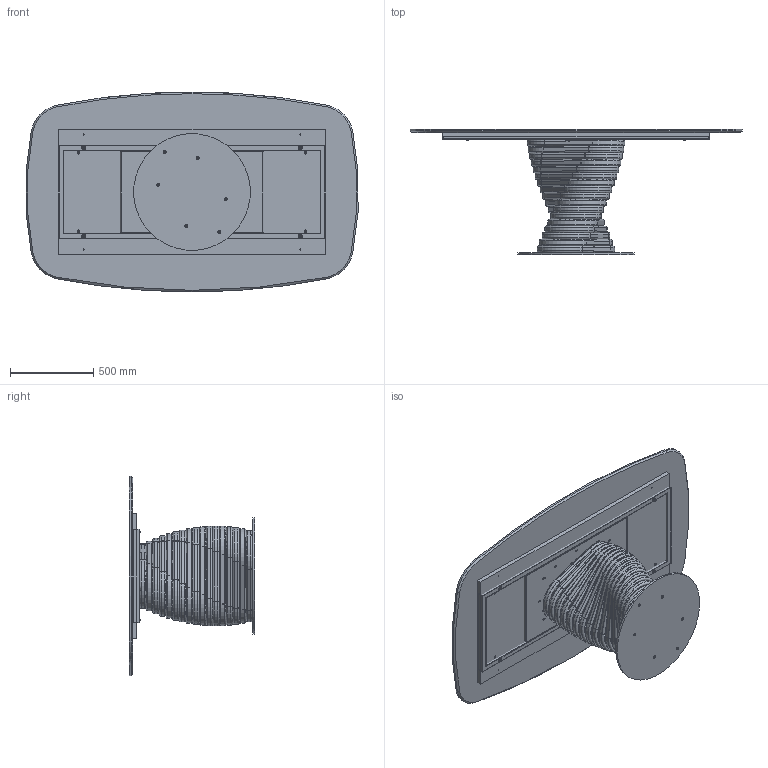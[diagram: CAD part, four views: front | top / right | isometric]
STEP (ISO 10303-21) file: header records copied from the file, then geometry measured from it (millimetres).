
FILE_DESCRIPTION (( 'STEP AP203' ), '1' );
FILE_NAME ('RO41M.STEP', '2024-08-07T13:34:49', ( '' ), ( '' ), 'SwSTEP 2.0', 'SolidWorks 2022', '' );
FILE_SCHEMA (( 'CONFIG_CONTROL_DESIGN' ));
Length unit declared in the file: millimetre
Products named in the file (17): M4XMXX-00-Piani Sagomati in marmo_2000x1200; ROBX00000-00-ROTOLO BASE 17 ANELLI; COLLO TELAIO UNIVERSALE TTAV01 CON FERRAMENTA_MTG TOP LEGNO-MARMO-KING; ROB200000-00-PIASTRA BASE_Ø70cm; TTAV01_02-05-VASSOIO IRRIGIDIMENTO TELAIO UNIVERSALE; ROBX00000INF-00-Anello rotolo INFERIORE_Default<A macchina>; rondella M8_8X24; TTAV01_01-05-TELAIO UNIVERSALE X TAVOLI 180 240cm; ROBX00000MED-00-Anello rotolo MEDIO_Default<A macchina>; M8xXXmm_M8x55mm; TRUXXXXXX-00-NOBILITATO GR CON SUPP TRUCIOLARE SP. 25_TRU00004_1600x720; M4X-00-Piani Sagomati in marmo_2000 x 1200; M8xXXmm_M8x20mm; M8xXXmm_hex_M8X20mm; ROBX00000SUP-00-Anello rotolo SUPERIORE_Default<A macchina>; TTAV01-05-TELAIO UNIVERSALE X TAVOLI 180 240cm; RO41M
Assembly tree (48 placements, depth 4):
  RO41M
    ROB200000-00-PIASTRA BASE_Ø70cm
    ROBX00000-00-ROTOLO BASE 17 ANELLI
      ROBX00000INF-00-Anello rotolo INFERIORE_Default<A macchina>
      ROBX00000MED-00-Anello rotolo MEDIO_Default<A macchina>  x15
      ROBX00000SUP-00-Anello rotolo SUPERIORE_Default<A macchina>
    M8xXXmm_hex_M8X20mm  x6
    COLLO TELAIO UNIVERSALE TTAV01 CON FERRAMENTA_MTG TOP LEGNO-MARMO-KING
      TTAV01-05-TELAIO UNIVERSALE X TAVOLI 180 240cm
        TTAV01_02-05-VASSOIO IRRIGIDIMENTO TELAIO UNIVERSALE
        TTAV01_01-05-TELAIO UNIVERSALE X TAVOLI 180 240cm
      rondella M8_8X24  x4
      M8xXXmm_M8x55mm  x4
    rondella M8_8X24  x4
    M8xXXmm_M8x20mm  x4
    M4XMXX-00-Piani Sagomati in marmo_2000x1200
      M4X-00-Piani Sagomati in marmo_2000 x 1200
      TRUXXXXXX-00-NOBILITATO GR CON SUPP TRUCIOLARE SP. 25_TRU00004_1600x720
Bounding box: 1992.14 x 752 x 1200 mm (x, y, z)
Volume: 86613804.8 mm3; surface area: 14825543.2 mm2
Topology: 95 solids, 95 shells, 1704 faces, 4052 edges, 2493 vertices
Faces by surface type: plane 660, cylinder 601, torus 244, cone 191, sphere 8
Entity records: 24103 total; most frequent: CARTESIAN_POINT 5275, DIRECTION 3542, ORIENTED_EDGE 3224, EDGE_CURVE 1612, AXIS2_PLACEMENT_3D 1343, VERTEX_POINT 1014, LINE 856, VECTOR 856
